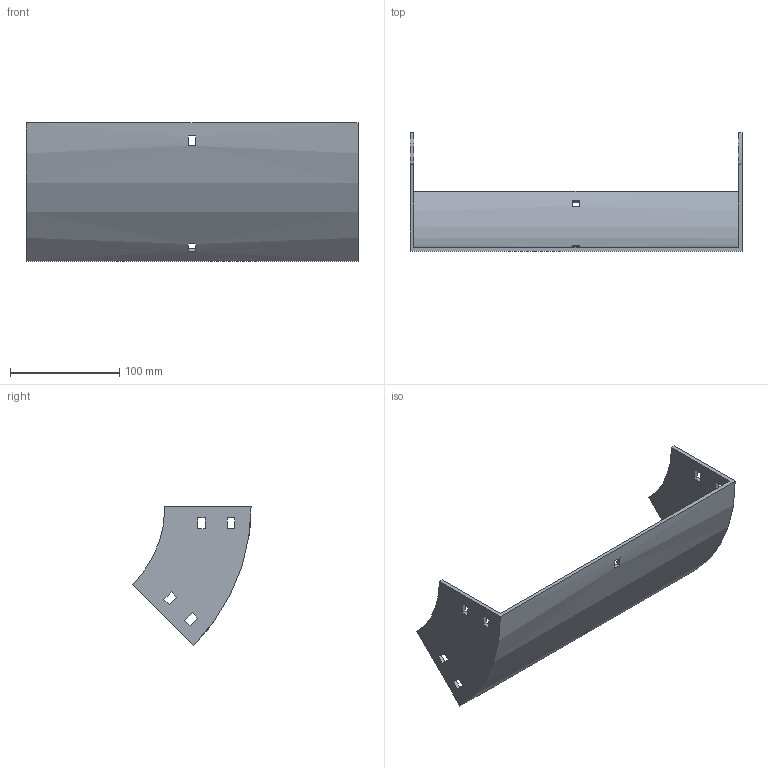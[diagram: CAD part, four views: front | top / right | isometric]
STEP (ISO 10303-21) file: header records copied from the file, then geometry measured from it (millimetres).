
FILE_DESCRIPTION (( 'STEP AP214' ), '1' );
FILE_NAME ('31B1C300.step', '2025-02-21T09:47:45', ( '' ), ( '' ), 'SwSTEP 2.0', 'SolidWorks 2023', '' );
FILE_SCHEMA (( 'AUTOMOTIVE_DESIGN' ));
Length unit declared in the file: millimetre
Products named in the file (1): 31B1C300
Bounding box: 304 x 108.29 x 126.57 mm (x, y, z)
Volume: 202927.7 mm3; surface area: 120873.1 mm2
Topology: 1 solids, 1 shells, 50 faces, 144 edges, 96 vertices
Faces by surface type: plane 46, cylinder 4
Entity records: 1687 total; most frequent: CARTESIAN_POINT 291, ORIENTED_EDGE 288, DIRECTION 262, EDGE_CURVE 144, VECTOR 128, LINE 128, VERTEX_POINT 96, EDGE_LOOP 70
